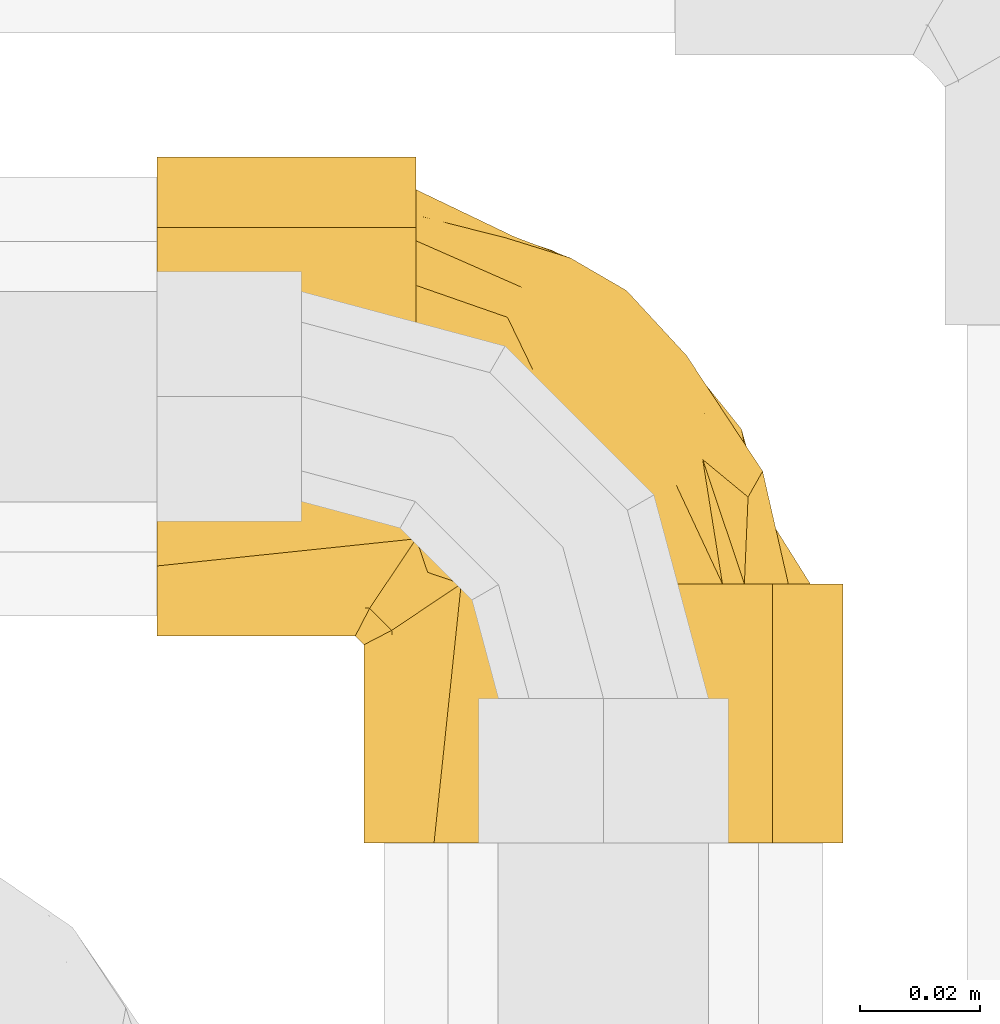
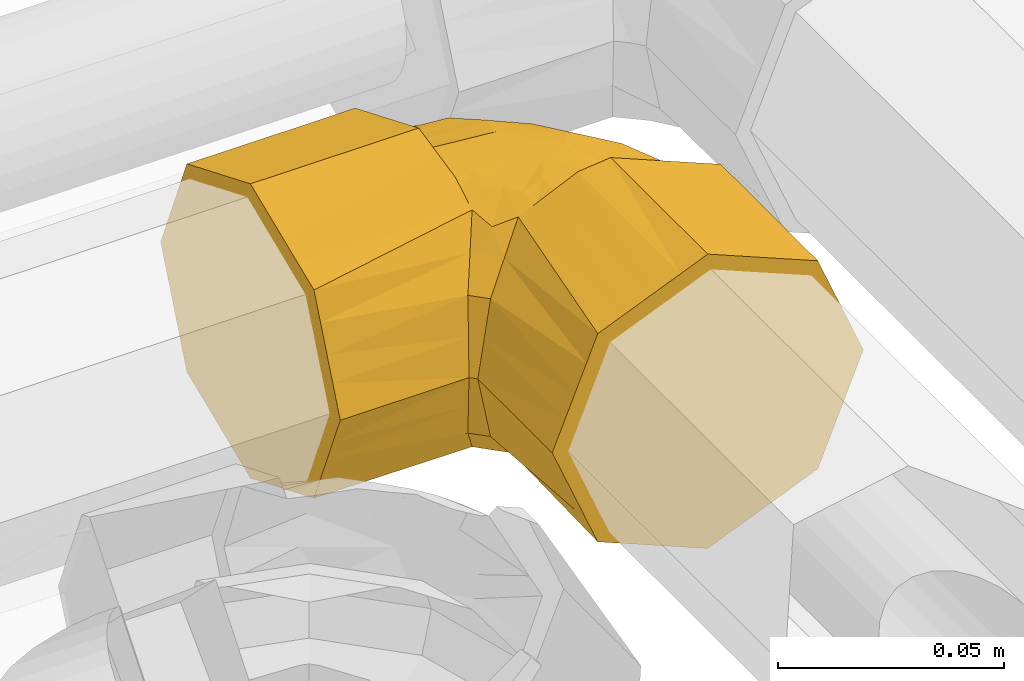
# One storey, part 259 of 652: 1 covering.
"""IFC2X3 building model written with IfcOpenShell, lengths in millimetres."""

import ifcopenshell
import ifcopenshell.guid

model = None  # the IFC model being written
_history = None  # IfcOwnerHistory: only IFC2X3 demands one
_inside = {}  # id of a spatial element -> (the spatial element, [elements in it])
_under = {}  # id of a project, library or spatial element -> (it, [spatial elements below it])
_declared = {}  # id of a project -> (the project, [libraries it declares])
_typed = {}  # id of a type object -> (the type object, [elements of that type])
_made_of = {}  # id of a material, layer set ... -> (it, [elements and type objects made of it])


def new_model(schema):
    """Start an empty IFC model of exactly this schema.

    Asked for "IFC4X3", IfcOpenShell would pick the latest addendum, in which some entities
    have other attributes; the version numbers below select the first issue.
    IFC2X3 requires an IfcOwnerHistory on every rooted entity: one is made here for all.
    """
    global model, _history
    if schema == "IFC4X3":
        model = ifcopenshell.file(schema_version=(4, 3, 0, 0))
    else:
        model = ifcopenshell.file(schema=schema)
    _inside.clear()
    _under.clear()
    _declared.clear()
    _typed.clear()
    _made_of.clear()
    _history = None
    if model.schema == "IFC2X3":
        org = make("IfcOrganization", Name="unknown")
        user = make(
            "IfcPersonAndOrganization",
            ThePerson=make("IfcPerson", FamilyName="unknown"),
            TheOrganization=org,
        )
        app = make(
            "IfcApplication",
            ApplicationDeveloper=org,
            Version="unknown",
            ApplicationFullName="unknown",
            ApplicationIdentifier="unknown",
        )
        _history = make(
            "IfcOwnerHistory",
            OwningUser=user,
            OwningApplication=app,
            ChangeAction="ADDED",
            CreationDate=0,
        )
    return model


def make(cls, **values):
    """One entity of the class cls with the attributes given. An attribute that is None is left unset."""
    return model.create_entity(
        cls, **{name: value for name, value in values.items() if value is not None}
    )


def entity(cls, *values):
    """Any entity or typed value of the class cls, its attributes in the order of the schema. None: left unset."""
    e = model.create_entity(cls)
    for i, value in enumerate(values):
        if value is not None:
            e[i] = value
    return e


def rooted(cls, **values):
    """An entity with a GlobalId (a new one), such as an element, a storey or a relation."""
    return make(cls, GlobalId=ifcopenshell.guid.new(), OwnerHistory=_history, **values)


def si_unit(unit_type, name, prefix=None):
    """IfcSIUnit, for example si_unit("LENGTHUNIT", "METRE", prefix="MILLI")."""
    return make("IfcSIUnit", UnitType=unit_type, Prefix=prefix, Name=name)


def converted_unit(unit_type, name, factor, base, dimensions=None, offset=None):
    """IfcConversionBasedUnit, such as the inch: factor (a typed value) times the base unit."""
    return make(
        "IfcConversionBasedUnit"
        if offset is None
        else "IfcConversionBasedUnitWithOffset",
        ConversionOffset=offset,
        Dimensions=None
        if dimensions is None
        else entity("IfcDimensionalExponents", *dimensions),
        UnitType=unit_type,
        Name=name,
        ConversionFactor=make(
            "IfcMeasureWithUnit", ValueComponent=factor, UnitComponent=base
        ),
    )


def assignment(units):
    """IfcUnitAssignment: the units of a project."""
    return None if units is None else make("IfcUnitAssignment", Units=units)


def point(xyz):
    """IfcCartesianPoint."""
    return None if xyz is None else make("IfcCartesianPoint", Coordinates=xyz)


def direction(xyz):
    """IfcDirection."""
    return None if xyz is None else make("IfcDirection", DirectionRatios=xyz)


def frame(location, z_axis=None, x_axis=None):
    """IfcAxis2Placement3D, a coordinate frame: its origin and axes. An axis left out is left unset."""
    return make(
        "IfcAxis2Placement3D",
        Location=point(location),
        Axis=direction(z_axis),
        RefDirection=direction(x_axis),
    )


def origin():
    """The frame at (0, 0, 0) with its axes left unset."""
    return frame((0.0, 0.0, 0.0))


def place(relative_to, where):
    """IfcLocalPlacement: puts the frame where relative to a parent placement (None: the world)."""
    return make(
        "IfcLocalPlacement", PlacementRelTo=relative_to, RelativePlacement=where
    )


def context(
    kind, dimensions, precision=None, world=None, true_north=None, identifier=None
):
    """IfcGeometricRepresentationContext, for example the 3D "Model" context."""
    return make(
        "IfcGeometricRepresentationContext",
        ContextIdentifier=identifier,
        ContextType=kind,
        CoordinateSpaceDimension=dimensions,
        Precision=precision,
        WorldCoordinateSystem=world,
        TrueNorth=true_north,
    )


def subcontext(parent, identifier, kind, view, scale=None):
    """IfcGeometricRepresentationSubContext, for example "Body" below "Model"."""
    return make(
        "IfcGeometricRepresentationSubContext",
        ContextIdentifier=identifier,
        ContextType=kind,
        ParentContext=parent,
        TargetScale=scale,
        TargetView=view,
    )


def project(units=None, contexts=None):
    """IfcProject with its units and contexts."""
    return rooted(
        "IfcProject",
        Name="project",
        RepresentationContexts=contexts,
        UnitsInContext=assignment(units),
    )


def spatial(cls, under=None, at=None, **own):
    """A site, building, storey or space (cls), placed at a placement, below another one or the project."""
    s = rooted(cls, ObjectPlacement=at, **own)
    if under is not None:
        _under.setdefault(under.id(), (under, []))[1].append(s)
    return s


def faces_of(points, faces, orient=None, outer=None):
    """IfcFace entities. A face is a list of loops; a loop is a list of indices into points, from 0.

    orient and outer hold one flag for each loop. By default every Orientation is true, the
    first loop of a face is its IfcFaceOuterBound and the others are IfcFaceBound.
    """
    made = []
    for i, loops in enumerate(faces):
        bounds = []
        for j, loop in enumerate(loops):
            is_outer = j == 0 if outer is None else outer[i][j]
            bounds.append(
                make(
                    "IfcFaceOuterBound" if is_outer else "IfcFaceBound",
                    Bound=make("IfcPolyLoop", Polygon=[points[k] for k in loop]),
                    Orientation=True if orient is None else orient[i][j],
                )
            )
        made.append(make("IfcFace", Bounds=bounds))
    return made


def faceted_brep(points, faces, orient=None, outer=None, voids=None):
    """IfcFacetedBrep: a solid bounded by flat faces; with voids (closed shells), ...WithVoids."""
    shared = [point(p) for p in points]
    hull = make("IfcClosedShell", CfsFaces=faces_of(shared, faces, orient, outer))
    if voids is None:
        return make("IfcFacetedBrep", Outer=hull)
    return make(
        "IfcFacetedBrepWithVoids",
        Outer=hull,
        Voids=[
            make(cls, CfsFaces=faces_of(shared, fs, o, b)) for cls, fs, o, b in voids
        ],
    )


def shape(context_of_items, identifier, shape_type, items):
    """IfcShapeRepresentation: the items that make up one representation, for example the "Body"."""
    return make(
        "IfcShapeRepresentation",
        ContextOfItems=context_of_items,
        RepresentationIdentifier=identifier,
        RepresentationType=shape_type,
        Items=items,
    )


def material(Name=None, Category=None):
    """IfcMaterial."""
    return make("IfcMaterial", Name=Name, Category=Category)


def made_of(thing, what):
    """Note that an element or type object is made of a material, layer set ...; save() writes the relation."""
    if what is not None:
        _made_of.setdefault(what.id(), (what, []))[1].append(thing)
    return thing


def type_object(cls, material=None, **own):
    """A type object (cls), such as IfcWallType, which elements share."""
    return made_of(rooted(cls, **own), material)


def element(
    cls,
    number,
    at=None,
    inside=None,
    cuts=None,
    type_object=None,
    material=None,
    context=None,
    identifier="Body",
    shape_type=None,
    held_by="IfcProductDefinitionShape",
    body=None,
    shapes=None,
    **own,
):
    """One element of the class cls, such as IfcWall. Its Tag is "e" and its number.

    at: its placement. inside: the storey or other place that contains it. cuts: it is an
    opening in that element (IfcRelVoidsElement). A single representation is given by context,
    identifier, shape_type and body (its items); several are given by shapes. held_by: the class
    of the entity that holds the representations. save() writes the other relations.
    """
    e = rooted(cls, Tag="e%d" % number, ObjectPlacement=at, **own)
    if body is not None:
        shapes = [shape(context, identifier, shape_type, body)]
    if shapes is not None:
        e.Representation = make(held_by, Representations=shapes)
    if inside is not None:
        _inside.setdefault(inside.id(), (inside, []))[1].append(e)
    if cuts is not None:
        rooted(
            "IfcRelVoidsElement", RelatingBuildingElement=cuts, RelatedOpeningElement=e
        )
    if type_object is not None:
        _typed.setdefault(type_object.id(), (type_object, []))[1].append(e)
    return made_of(e, material)


def aggregate(whole, parts):
    """IfcRelAggregates: a whole, such as a stair, and the parts it consists of."""
    return rooted("IfcRelAggregates", RelatingObject=whole, RelatedObjects=parts)


def save(model, path):
    """Write the relations noted so far, then the file.

    IfcRelAggregates (storeys below a building ...), IfcRelContainedInSpatialStructure (elements
    in a storey), IfcRelDefinesByType, IfcRelAssociatesMaterial and IfcRelDeclares: one each for
    every whole, place, type object, material and project.
    """
    for whole, parts in _under.values():
        aggregate(whole, parts)
    for where, things in _inside.values():
        rooted(
            "IfcRelContainedInSpatialStructure",
            RelatedElements=things,
            RelatingStructure=where,
        )
    for kind, things in _typed.values():
        rooted("IfcRelDefinesByType", RelatedObjects=things, RelatingType=kind)
    for what, things in _made_of.values():
        rooted("IfcRelAssociatesMaterial", RelatedObjects=things, RelatingMaterial=what)
    for by, libraries in _declared.values():
        rooted("IfcRelDeclares", RelatingContext=by, RelatedDefinitions=libraries)
    model.write(path)


model = new_model("IFC2X3")

# Units and contexts
model_context = context("Model", 3, precision=0.01, world=frame((0.0, 0.0, 308426.39999999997)), true_north=direction((6.123233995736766e-17, 1.0)))
plan_context = context("Plan", 3, precision=0.01, world=frame((0.0, 0.0, 308426.39999999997)), true_north=direction((6.123233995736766e-17, 1.0)))
body_context = subcontext(model_context, "Body", "Model", "MODEL_VIEW")
ifc_project = project(units=[si_unit("LENGTHUNIT", "METRE", prefix="MILLI"), si_unit("AREAUNIT", "SQUARE_METRE"), si_unit("VOLUMEUNIT", "CUBIC_METRE"), converted_unit("PLANEANGLEUNIT", "DEGREE", entity("IfcPlaneAngleMeasure", 0.017453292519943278), si_unit("PLANEANGLEUNIT", "RADIAN"), dimensions=[0, 0, 0, 0, 0, 0, 0])], contexts=[model_context, plan_context])

# Site, building, storey
site_placement = place(None, origin())
site = spatial("IfcSite", under=ifc_project, at=site_placement, Name="Default", CompositionType="ELEMENT")
building_placement = place(site_placement, origin())
building = spatial("IfcBuilding", under=site, at=building_placement, CompositionType="ELEMENT")
storey_placement = place(building_placement, frame((0.0, 0.0, 1730.6999999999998)))
storey = spatial("IfcBuildingStorey", under=building, at=storey_placement, Name="EG_Produktion_FFB", CompositionType="ELEMENT", Elevation=1730.6999999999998)

# Covering
ifc_material = material(Name="Dämmung - Armaflex-Schlauch")
covering_type = type_object("IfcCoveringType", Name="Rohrdämmung außen:Armaflex-Schlauch", PredefinedType="INSULATION")
covering_placement = place(storey_placement, frame((76505.9157500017, 59775.9157499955, 3941.353272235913)))
element("IfcCovering", 1, at=covering_placement, inside=storey, type_object=covering_type, material=ifc_material, Name="Rohrdämmung außen:Armaflex-Schlauch", ObjectType="Rohrdämmung außen:Armaflex-Schlauch", PredefinedType="INSULATION", context=body_context, shape_type="Brep", body=[
    faceted_brep([(60.144076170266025, 43.00574999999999, -76.6230067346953), (64.13185283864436, 43.00574999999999, -77.0895182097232), (70.33992920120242, 43.00574999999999, -77.81577223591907), (77.97579246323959, 43.00574999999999, -74.37467999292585), (85.61165572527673, 43.00574999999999, -70.93358774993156), (92.7724816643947, 43.00574999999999, -67.70657048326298), (99.933307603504, 43.00574999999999, -64.47955321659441), (104.18429126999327, 43.00574999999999, -52.91641272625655), (108.43527493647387, 43.00574999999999, -41.353272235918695), (104.78880055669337, 43.00574999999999, -34.14184701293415), (101.14232617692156, 43.00574999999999, -26.930421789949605), (97.49585179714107, 43.00574999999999, -19.71899656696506), (93.84937741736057, 43.00574999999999, -12.507571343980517), (86.49570507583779, 43.00574999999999, -10.12506349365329), (78.4178171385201, 43.00574999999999, -7.507917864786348), (70.33992920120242, 43.00574999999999, -4.890772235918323), (64.13185283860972, 43.00574999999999, -5.617026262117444), (60.144076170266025, 43.00574999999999, -6.083537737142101), (55.31227974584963, 43.00574999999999, -7.721836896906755), (50.48048332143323, 43.00574999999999, -9.360136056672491), (58.097909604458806, 43.00574999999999, -5.923100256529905), (65.7153358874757, 43.00574999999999, -2.4860644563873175), (74.08425000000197, 43.00574999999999, -1.5952722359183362), (82.0800204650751, 43.00574999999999, -4.90722880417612), (88.14082570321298, 43.00574999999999, -7.417696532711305), (95.16911355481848, 43.00574999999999, -10.328908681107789), (102.19740140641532, 43.00574999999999, -13.240120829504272), (105.10861355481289, 43.00574999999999, -20.26840868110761), (108.01982570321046, 43.00574999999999, -27.296696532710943), (110.93103785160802, 43.00574999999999, -34.324984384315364), (113.84224999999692, 43.00574999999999, -41.353272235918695), (110.53029340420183, 43.00574999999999, -49.34904276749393), (108.01982570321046, 43.00574999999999, -55.40984793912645), (105.10861355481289, 43.00574999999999, -62.43813579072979), (102.19740140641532, 43.00574999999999, -69.46642364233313), (95.16911355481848, 43.00574999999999, -72.3776357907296), (88.14082570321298, 43.00574999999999, -75.28884793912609), (82.08001919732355, 43.00574999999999, -77.79931619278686), (74.08425000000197, 43.00574999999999, -81.11127223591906), (65.90827541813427, 43.00574999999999, -79.35209785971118), (57.732300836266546, 43.00574999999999, -77.59292348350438), (50.48048332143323, 43.00574999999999, -73.3464084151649), (55.31227974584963, 43.00574999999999, -74.98470757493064), (67.05596214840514, 0.0, -4.50648438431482), (60.02767429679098, 0.0, -7.417696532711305), (52.99938644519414, 0.0, -10.328908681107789), (45.971098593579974, 0.0, -13.240120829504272), (43.05988644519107, 0.0, -20.26840868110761), (40.1486742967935, 0.0, -27.296696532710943), (37.63820666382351, 0.0, -33.357501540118), (34.32624999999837, 0.0, -41.353272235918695), (37.638205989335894, 0.0, -49.34904130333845), (40.14867429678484, 0.0, -55.40984793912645), (43.05988644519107, 0.0, -62.43813579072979), (45.971098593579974, 0.0, -69.46642364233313), (52.99938644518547, 0.0, -72.3776357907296), (60.02767429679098, 0.0, -75.28884793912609), (67.05596214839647, 0.0, -78.20006008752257), (74.08425000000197, 0.0, -81.11127223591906), (81.11253785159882, 0.0, -78.20006008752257), (88.14082570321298, 0.0, -75.28884793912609), (95.16911355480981, 0.0, -72.3776357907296), (102.19740140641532, 0.0, -69.46642364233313), (105.10861355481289, 0.0, -62.43813579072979), (108.01982570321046, 0.0, -55.40984793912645), (110.93103785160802, 0.0, -48.38156008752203), (113.84224999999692, 0.0, -41.353272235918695), (110.93103785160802, 0.0, -34.324984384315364), (108.01982570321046, 0.0, -27.296696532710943), (105.10861355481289, 0.0, -20.26840868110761), (102.19740140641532, 0.0, -13.240120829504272), (90.07579169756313, 0.0, -8.219185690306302), (82.08002084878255, 0.0, -4.9072289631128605), (74.08425000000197, 0.0, -1.5952722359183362), (44.71268924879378, 39.14313917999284, -16.05718390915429), (34.32624999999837, 32.887345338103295, -41.353272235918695), (36.63557258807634, 34.0839368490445, -32.05375199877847), (38.94489517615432, 35.28052835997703, -22.754231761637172), (37.79023388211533, 34.68223260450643, -27.403991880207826), (44.71268924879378, 39.14313917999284, -66.6493605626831), (36.63557258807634, 34.0839368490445, -50.652792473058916), (38.94489517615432, 35.28052835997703, -59.95231271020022), (35.39615835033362, 33.441725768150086, -45.661736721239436), (43.00574999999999, 74.08425000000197, -81.11127223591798), (43.00574999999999, 82.0800204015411, -77.79931569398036), (43.00574999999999, 88.14082570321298, -75.288847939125), (43.00574999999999, 95.16911355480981, -72.37763579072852), (43.00574999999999, 102.19740140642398, -69.46642364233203), (43.00574999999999, 105.10861355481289, -62.43813579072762), (43.00574999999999, 108.01982570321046, -55.40984793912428), (43.00574999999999, 110.53029398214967, -49.34904137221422), (43.00574999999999, 113.84225000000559, -41.353272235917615), (43.00574999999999, 110.53029355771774, -33.357502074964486), (43.00574999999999, 108.01982570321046, -27.296696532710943), (43.00574999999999, 105.10861355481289, -20.26840868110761), (43.00574999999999, 102.19740140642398, -13.24012082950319), (43.00574999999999, 95.16911355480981, -10.328908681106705), (43.00574999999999, 88.14082570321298, -7.417696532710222), (43.00574999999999, 81.11253785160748, -4.506484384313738), (43.00574999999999, 74.08425000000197, -1.5952722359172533), (43.00574999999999, 65.90823846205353, -3.354463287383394), (43.00574999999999, 57.73222692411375, -5.113654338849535), (43.00574999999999, 50.48048332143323, -9.360136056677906), (43.00574999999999, 55.31227974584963, -7.721836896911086), (43.00574999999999, 60.14407617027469, -6.083537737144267), (43.00574999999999, 64.13185213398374, -5.6170263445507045), (43.00574999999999, 67.23589066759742, -5.253899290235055), (43.00574999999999, 70.33992920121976, -4.890772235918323), (43.00574999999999, 77.7403796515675, -8.227318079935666), (43.00574999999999, 85.14083010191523, -11.563863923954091), (43.00574999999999, 92.54128055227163, -14.900409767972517), (43.00574999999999, 99.94173100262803, -18.23695561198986), (43.00574999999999, 102.06511698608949, -24.0160347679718), (43.00574999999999, 104.18850296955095, -29.79511392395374), (43.00574999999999, 108.4352749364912, -41.353272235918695), (43.00574999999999, 104.78589932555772, -48.566861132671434), (43.00574999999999, 101.1365237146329, -55.78045002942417), (43.00574999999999, 97.4871481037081, -62.99403892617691), (43.00574999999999, 93.83777249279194, -70.20762782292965), (43.00574999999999, 87.96331166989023, -72.10966392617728), (43.00574999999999, 82.08885084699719, -74.01170002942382), (43.00574999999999, 70.33992920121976, -77.81577223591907), (43.00574999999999, 67.23589066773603, -77.45264518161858), (43.00574999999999, 64.1318521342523, -77.089518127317), (43.00574999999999, 60.14407617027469, -76.62300673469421), (43.00574999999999, 55.31227974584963, -74.98470757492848), (43.00574999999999, 50.48048332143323, -73.34640841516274), (43.00574999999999, 58.097888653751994, -76.78343970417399), (43.00574999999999, 65.7152939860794, -80.22047099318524), (0.0, 81.11253785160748, -4.506484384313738), (0.0, 88.14082570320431, -7.417696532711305), (0.0, 95.16911355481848, -10.328908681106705), (0.0, 102.19740140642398, -13.24012082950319), (0.0, 107.21833667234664, -25.361730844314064), (0.0, 110.53029333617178, -33.35750154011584), (0.0, 113.84225000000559, -41.353272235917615), (0.0, 110.93103785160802, -48.38156008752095), (0.0, 108.01982570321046, -55.40984793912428), (0.0, 105.10861355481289, -62.43813579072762), (0.0, 102.19740140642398, -69.46642364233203), (0.0, 95.16911355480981, -72.37763579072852), (0.0, 88.14082570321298, -75.288847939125), (0.0, 81.11253785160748, -78.20006008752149), (0.0, 74.08425000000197, -81.11127223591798), (0.0, 67.05596214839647, -78.20006008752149), (0.0, 60.02767429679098, -75.288847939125), (0.0, 52.99938644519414, -72.37763579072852), (0.0, 45.971098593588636, -69.46642364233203), (0.0, 43.05988644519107, -62.4381357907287), (0.0, 40.1486742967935, -55.40984793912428), (0.0, 37.63820673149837, -49.349043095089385), (0.0, 34.32625000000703, -41.353272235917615), (0.0, 37.638205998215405, -33.35750314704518), (0.0, 40.14867429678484, -27.296696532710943), (0.0, 43.05988644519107, -20.268408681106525), (0.0, 45.971098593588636, -13.24012082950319), (0.0, 52.99938644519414, -10.328908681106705), (0.0, 60.02767429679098, -7.417696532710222), (0.0, 66.08847915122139, -4.907228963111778), (0.0, 74.08425000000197, -1.5952722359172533), (32.88734533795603, 34.32624999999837, -41.353272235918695), (34.08393684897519, 36.635572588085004, -32.05375199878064), (35.280528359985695, 38.94489517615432, -22.75423176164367), (33.99610617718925, 36.466066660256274, -32.73634342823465), (39.14313917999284, 44.71268924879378, -16.057183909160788), (39.14313917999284, 44.71268924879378, -66.64936056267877), (34.08393684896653, 36.63557258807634, -50.65279247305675), (35.28052835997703, 38.94489517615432, -59.95231271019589), (33.99610617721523, 36.46606666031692, -49.970201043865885), (33.44172575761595, 35.396158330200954, -45.66173663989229), (58.166290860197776, 87.24641648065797, -12.124299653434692), (86.24367512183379, 59.264167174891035, -11.869467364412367), (75.43570574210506, 64.79374823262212, -8.378555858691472), (63.77170858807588, 54.444618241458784, -4.890772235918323), (71.00962303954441, 57.53690591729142, -5.704393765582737), (60.33082901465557, 69.53966351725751, -5.817790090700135), (74.69227230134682, 78.61751170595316, -14.285355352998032), (90.57284197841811, 63.635451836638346, -17.286951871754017), (77.92193606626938, 91.69909945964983, -41.353272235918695), (68.6359141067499, 97.09443549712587, -33.28725759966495), (87.88495600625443, 80.91983021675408, -32.93381303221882), (100.80694021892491, 55.17908736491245, -41.353272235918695), (100.52515800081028, 61.704602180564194, -31.928717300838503), (79.21479866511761, 81.91303386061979, -20.526984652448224), (45.38936071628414, 68.51539346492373, -4.890772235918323), (47.77297143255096, 66.69085772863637, -4.890772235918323), (52.54019286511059, 63.04178625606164, -4.890772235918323), (58.15595072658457, 58.74320224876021, -4.890772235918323), (60.494157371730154, 92.25168823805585, -17.193351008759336), (90.87816522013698, 71.24462333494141, -23.505882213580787), (98.10654117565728, 57.411109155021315, -22.489971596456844), (69.6013927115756, 92.66741072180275, -24.518432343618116), (81.49463540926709, 84.61256912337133, -26.856666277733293), (60.46384303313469, 100.06718719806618, -41.353272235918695), (59.30685202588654, 100.62176107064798, -41.353272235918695), (93.1786055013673, 67.3524247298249, -41.353272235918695), (89.44118018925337, 73.31662804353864, -41.353272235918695), (85.55027078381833, 79.52576209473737, -41.353272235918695), (57.68461622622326, 100.50080532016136, -26.96209309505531), (62.34563514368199, 78.60353708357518, -8.907205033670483), (98.93822756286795, 58.16118902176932, -41.353272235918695), (67.32420901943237, 48.25776996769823, -4.890772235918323), (59.547719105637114, 48.6114223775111, -5.540058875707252), (54.28952280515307, 47.90470472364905, -6.7519160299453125), (33.63371593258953, 33.63371593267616, -41.353272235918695), (51.45915617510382, 51.459156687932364, -6.670824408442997), (44.908883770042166, 44.908883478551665, -11.210836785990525), (47.90470403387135, 54.28952252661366, -6.751916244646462), (48.5166417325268, 59.518701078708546, -5.555021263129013), (59.54771910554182, 48.6114223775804, -77.16648559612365), (67.32420901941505, 48.25776996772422, -77.81577223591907), (44.90888341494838, 44.90888338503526, -71.49570746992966), (51.45915542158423, 51.459155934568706, -76.03571971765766), (54.289522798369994, 47.90470469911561, -75.95462843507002), (58.15595072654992, 58.743202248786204, -77.81577223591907), (47.904704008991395, 54.28952251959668, -75.95462822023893), (48.51664173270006, 59.51870107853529, -77.1515232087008), (47.772971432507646, 66.69085772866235, -77.81577223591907), (63.77170858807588, 54.444618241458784, -77.81577223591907), (45.389360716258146, 68.51539346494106, -77.81577223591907), (52.54019286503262, 63.041786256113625, -77.81577223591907), (77.88884430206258, 59.61186262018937, -74.8059873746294), (85.68390575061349, 58.14792793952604, -71.56225245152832), (57.20212685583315, 76.41301603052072, -75.79919171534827), (85.21783817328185, 83.37405497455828, -50.884712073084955), (76.99963686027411, 79.87091005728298, -65.94296495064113), (68.28685011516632, 74.44381850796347, -73.5894665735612), (64.58632217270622, 86.90253298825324, -68.10768824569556), (64.72447259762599, 66.0986310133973, -76.81449307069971), (73.0393897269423, 55.98858201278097, -76.81985109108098), (85.65544995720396, 67.81026209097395, -67.3679184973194), (75.83338581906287, 86.6462536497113, -60.18508487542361), (65.65295551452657, 98.35278997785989, -51.08904624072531), (60.45142062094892, 96.79734628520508, -60.011099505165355), (57.30670812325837, 83.33506495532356, -73.08709853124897), (95.65270419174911, 64.80279365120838, -58.137926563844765), (86.3305076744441, 74.76137203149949, -61.638668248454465), (94.01862068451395, 55.99524376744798, -65.97235995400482), (97.0320102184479, 68.64794002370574, -49.623757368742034)], [[[0, 1, 2, 3, 4, 5, 6, 7, 8, 9, 10, 11, 12, 13, 14, 15, 16, 17, 18, 19, 20, 21, 22, 23, 24, 25, 26, 27, 28, 29, 30, 31, 32, 33, 34, 35, 36, 37, 38, 39, 40, 41, 42]], [[43, 44, 45, 46, 47, 48, 49, 50, 51, 52, 53, 54, 55, 56, 57, 58, 59, 60, 61, 62, 63, 64, 65, 66, 67, 68, 69, 70, 71, 72, 73]], [[47, 46, 74]], [[75, 50, 49]], [[76, 75, 49]], [[48, 77, 78, 76]], [[47, 74, 77]], [[44, 20, 45]], [[43, 21, 44]], [[46, 19, 74]], [[77, 48, 47]], [[44, 21, 20]], [[43, 22, 21]], [[48, 76, 49]], [[43, 73, 22]], [[45, 20, 19]], [[19, 46, 45]], [[23, 22, 73, 72, 71, 70, 26, 25, 24]], [[26, 70, 69, 68, 67, 66, 30, 29, 28, 27]], [[38, 37, 36, 35, 34, 62, 61, 60, 59, 58]], [[30, 66, 65, 64, 63, 62, 34, 33, 32, 31]], [[56, 40, 39]], [[53, 79, 54]], [[39, 57, 56]], [[41, 55, 54]], [[40, 55, 41]], [[80, 52, 51]], [[52, 80, 81]], [[58, 57, 38]], [[51, 75, 82, 80]], [[38, 57, 39]], [[79, 53, 81]], [[55, 40, 56]], [[51, 50, 75]], [[53, 52, 81]], [[79, 41, 54]], [[83, 84, 85, 86, 87, 88, 89, 90, 91, 92, 93, 94, 95, 96, 97, 98, 99, 100, 101, 102, 103, 104, 105, 106, 107, 108, 109, 110, 111, 112, 113, 114, 115, 116, 117, 118, 119, 120, 121, 122, 123, 124, 125, 126, 127, 128]], [[129, 130, 131, 132, 133, 134, 135, 136, 137, 138, 139, 140, 141, 142, 143, 144, 145, 146, 147, 148, 149, 150, 151, 152, 153, 154, 155, 156, 157, 158, 159]], [[135, 134, 133, 132, 95, 94, 93, 92, 91]], [[95, 132, 131, 130, 129, 159, 99, 98, 97, 96]], [[159, 158, 157, 100]], [[101, 156, 102]], [[99, 159, 100]], [[101, 100, 157]], [[152, 151, 160]], [[102, 156, 155]], [[153, 161, 162]], [[161, 153, 152]], [[152, 160, 163, 161]], [[154, 164, 155]], [[164, 154, 162]], [[156, 101, 157]], [[154, 153, 162]], [[164, 102, 155]], [[148, 147, 165]], [[149, 166, 150]], [[166, 149, 167]], [[160, 151, 150]], [[148, 165, 167]], [[145, 127, 146]], [[144, 128, 145]], [[147, 126, 165]], [[167, 149, 148]], [[145, 128, 127]], [[144, 83, 128]], [[150, 166, 168, 169, 160]], [[144, 143, 83]], [[146, 127, 126]], [[126, 147, 146]], [[91, 90, 89, 88, 87, 139, 138, 137, 136, 135]], [[141, 140, 139, 87, 86, 85, 84, 83, 143, 142]], [[109, 170, 110]], [[13, 171, 172]], [[14, 13, 172]], [[173, 174, 175]], [[176, 171, 177]], [[15, 14, 174]], [[178, 179, 180]], [[9, 181, 182]], [[172, 175, 174]], [[13, 12, 171]], [[12, 11, 177]], [[176, 177, 183]], [[175, 107, 184, 185, 186, 187, 173]], [[188, 170, 176]], [[176, 172, 171]], [[189, 190, 182]], [[11, 10, 190]], [[177, 11, 190]], [[170, 188, 110]], [[191, 183, 192]], [[179, 178, 193, 194]], [[182, 190, 10]], [[189, 182, 180]], [[177, 190, 189]], [[182, 10, 9]], [[182, 195, 180]], [[177, 189, 183]], [[177, 171, 12]], [[180, 195, 196, 197, 178]], [[113, 179, 194]], [[112, 111, 198, 113]], [[198, 111, 188]], [[194, 114, 113]], [[179, 191, 192]], [[199, 175, 172]], [[199, 108, 175]], [[172, 176, 199]], [[188, 111, 110]], [[199, 170, 109]], [[183, 188, 176]], [[108, 199, 109]], [[188, 191, 198]], [[108, 107, 175]], [[176, 170, 199]], [[192, 189, 180]], [[188, 183, 191]], [[189, 192, 183]], [[179, 192, 180]], [[181, 9, 8]], [[182, 181, 200, 195]], [[191, 179, 198]], [[179, 113, 198]], [[174, 173, 201, 15]], [[172, 174, 14]], [[173, 202, 201]], [[173, 187, 203]], [[18, 203, 19]], [[201, 17, 16, 15]], [[204, 76, 163]], [[74, 164, 162, 77]], [[163, 76, 78, 77, 162, 161]], [[205, 102, 206]], [[206, 164, 74]], [[106, 105, 104, 185, 184, 107]], [[205, 207, 102]], [[186, 185, 208, 187]], [[204, 75, 76]], [[163, 160, 204]], [[205, 206, 19]], [[164, 206, 102]], [[203, 205, 19]], [[19, 206, 74]], [[201, 202, 17]], [[17, 202, 18]], [[203, 202, 173]], [[18, 202, 203]], [[102, 207, 103]], [[103, 208, 104]], [[207, 205, 187]], [[208, 103, 207]], [[208, 185, 104]], [[187, 208, 207]], [[203, 187, 205]], [[204, 160, 169]], [[209, 210, 0]], [[169, 168, 166, 167, 81, 80, 82]], [[41, 211, 212]], [[1, 0, 210, 2]], [[213, 212, 214]], [[204, 169, 82]], [[79, 165, 211]], [[126, 125, 215]], [[212, 211, 126]], [[204, 82, 75]], [[167, 165, 79, 81]], [[216, 124, 217]], [[218, 209, 213]], [[122, 121, 219, 217, 124, 123]], [[41, 79, 211]], [[211, 165, 126]], [[209, 0, 42]], [[125, 124, 216]], [[126, 215, 212]], [[125, 216, 215]], [[220, 214, 216, 217]], [[213, 42, 41]], [[212, 213, 41]], [[210, 209, 218]], [[214, 212, 215]], [[209, 42, 213]], [[215, 216, 214]], [[218, 213, 214]], [[4, 221, 222]], [[223, 121, 120]], [[224, 178, 197, 196]], [[225, 226, 227]], [[228, 226, 221]], [[229, 218, 228]], [[222, 226, 230]], [[231, 232, 224]], [[3, 229, 221]], [[233, 232, 231]], [[234, 223, 120]], [[229, 2, 210, 218]], [[224, 235, 236]], [[4, 3, 221]], [[228, 218, 214, 220, 217, 219, 121]], [[237, 222, 230]], [[6, 235, 7]], [[235, 6, 237]], [[238, 200, 7]], [[228, 223, 226]], [[224, 238, 235]], [[234, 226, 223]], [[227, 117, 233]], [[193, 232, 115]], [[224, 232, 178]], [[115, 114, 194, 193]], [[235, 237, 236]], [[238, 224, 196]], [[226, 222, 221]], [[222, 237, 5]], [[5, 237, 6]], [[5, 4, 222]], [[237, 230, 236]], [[7, 200, 181, 8]], [[7, 235, 238]], [[238, 196, 195, 200]], [[227, 118, 117]], [[193, 178, 232]], [[231, 236, 225]], [[233, 117, 116]], [[232, 233, 116]], [[227, 233, 231]], [[229, 3, 2]], [[228, 221, 229]], [[121, 223, 228]], [[119, 118, 234, 120]], [[234, 118, 227]], [[227, 226, 234]], [[232, 116, 115]], [[225, 236, 230]], [[224, 236, 231]], [[226, 225, 230]], [[231, 225, 227]]]),
])

save(model, "model.ifc")
